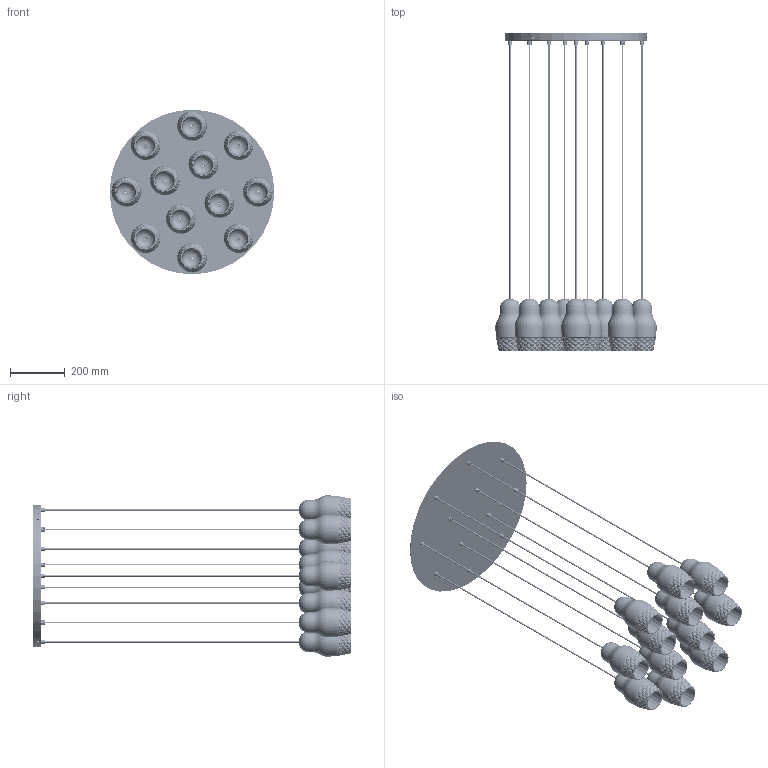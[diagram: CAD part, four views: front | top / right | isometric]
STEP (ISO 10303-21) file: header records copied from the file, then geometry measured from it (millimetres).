
FILE_DESCRIPTION (( 'STEP AP203' ), '1' );
FILE_NAME ('SPFEDORA12-PER 3D.STEP', '2024-05-29T15:17:21', ( '' ), ( '' ), 'SwSTEP 2.0', 'SolidWorks 2024', '' );
FILE_SCHEMA (( 'CONFIG_CONTROL_DESIGN' ));
Length unit declared in the file: millimetre
Products named in the file (11): FEDORA-SP1-1-5-1; FEDORA-SP-WIRE-CE-3.5M_默认; FEDORA-SP12-4-01_Default<按加工>; FEDORA-SP1-1-5-1-01; FEDORA-SP12-4; FEDORA-SP12-4-03; FEDORA-SP12-4-05; FEDORA-SP1-1-5-01; SPFEDORA12-PER 3D; FEDORA-SP1-1; FEDORA-SP1-1-5
Assembly tree (43 placements, depth 4):
  SPFEDORA12-PER 3D
    FEDORA-SP12-4
      FEDORA-SP12-4-01_Default<按加工>
      FEDORA-SP12-4-03
      FEDORA-SP12-4-05  x12
    FEDORA-SP1-1  x12
      FEDORA-SP-WIRE-CE-3.5M_默认
    FEDORA-SP1-1-5  x12
      FEDORA-SP1-1-5-1
        FEDORA-SP1-1-5-1-01
      FEDORA-SP1-1-5-01
Bounding box: 600 x 1162.53 x 600 mm (x, y, z)
Volume: 3637650.8 mm3; surface area: 2869353.7 mm2
Topology: 51 solids, 51 shells, 4286 faces, 10619 edges, 6460 vertices
Faces by surface type: bspline 2412, torus 1214, cylinder 319, cone 192, plane 149
Entity records: 31869 total; most frequent: CARTESIAN_POINT 19984, ORIENTED_EDGE 2252, DIRECTION 1729, EDGE_CURVE 1126, AXIS2_PLACEMENT_3D 717, VERTEX_POINT 696, EDGE_LOOP 514, ADVANCED_FACE 447
